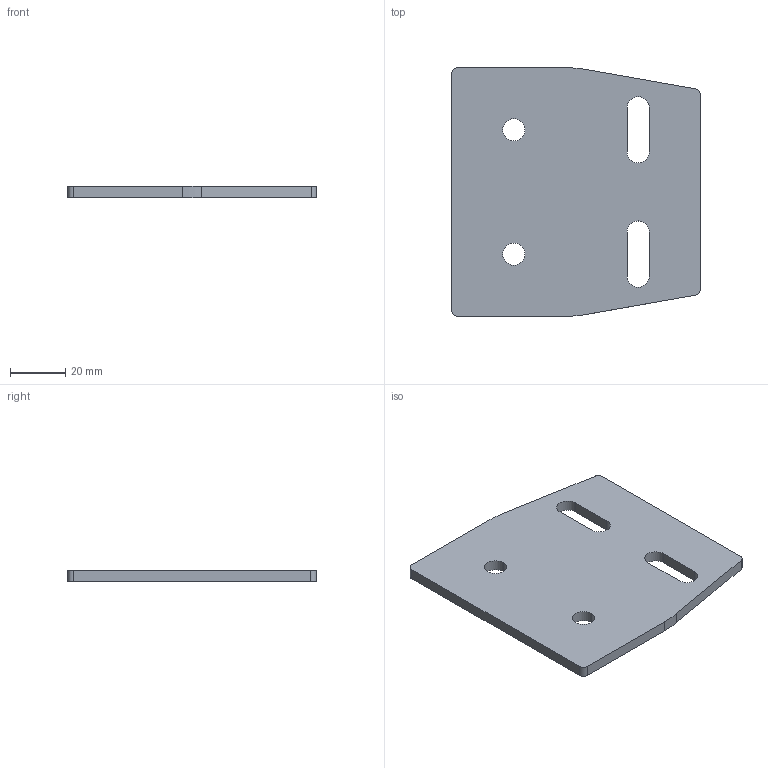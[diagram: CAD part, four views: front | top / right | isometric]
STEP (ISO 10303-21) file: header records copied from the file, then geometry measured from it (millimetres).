
FILE_DESCRIPTION (( 'STEP AP203' ), '1' );
FILE_NAME ('2000.325.610.STEP', '2013-01-29T15:02:07', ( 'Alusic' ), ( 'Alusic' ), 'SwSTEP 2.0', 'SolidWorks 2011', '' );
FILE_SCHEMA (( 'CONFIG_CONTROL_DESIGN' ));
Length unit declared in the file: millimetre
Products named in the file (1): 2000.325.610
Bounding box: 90 x 90 x 4 mm (x, y, z)
Volume: 29129.3 mm3; surface area: 16593.3 mm2
Topology: 1 solids, 1 shells, 26 faces, 72 edges, 48 vertices
Faces by surface type: cylinder 14, plane 12
Entity records: 937 total; most frequent: DIRECTION 154, CARTESIAN_POINT 147, ORIENTED_EDGE 144, EDGE_CURVE 72, AXIS2_PLACEMENT_3D 55, VERTEX_POINT 48, VECTOR 44, LINE 44
